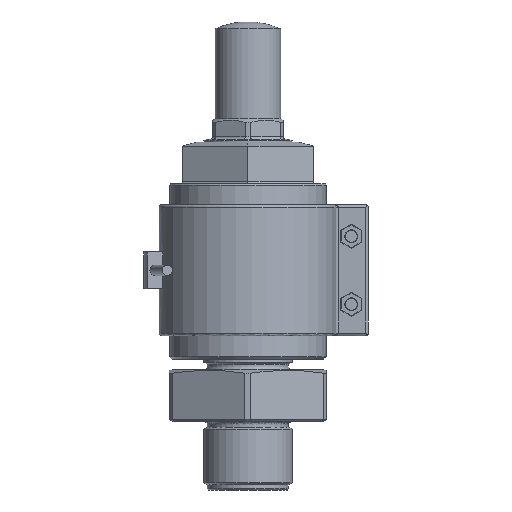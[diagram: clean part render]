
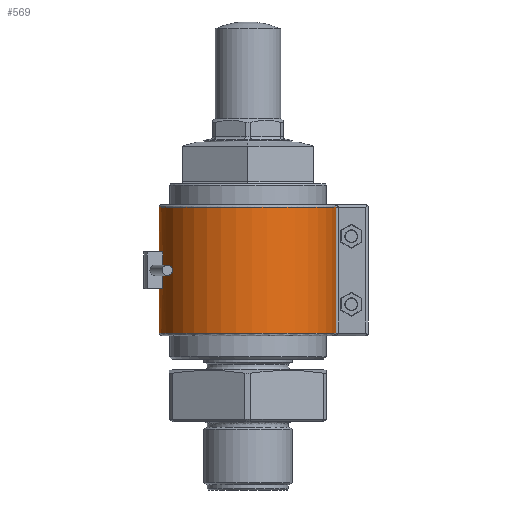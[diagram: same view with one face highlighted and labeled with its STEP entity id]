
A CAD part, left-side view. The second image highlights one B-rep face of the part: STEP entity #569.
In plain terms, the highlighted cylindrical face has radius 34 mm (diameter 68 mm), a partial arc.
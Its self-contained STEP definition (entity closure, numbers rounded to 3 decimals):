
#569=ADVANCED_FACE('',(#1286,#1287),#1288,.T.);
#1286=FACE_BOUND('',#2876,.T.);
#1287=FACE_OUTER_BOUND('',#2877,.T.);
#1288=CYLINDRICAL_SURFACE('',#2878,34.0);
#2876=EDGE_LOOP('',(#4354,#4355,#4356,#4357));
#2877=EDGE_LOOP('',(#4358,#4359,#4360,#4361));
#2878=AXIS2_PLACEMENT_3D('',#4362,#4363,#4364);
#4354=ORIENTED_EDGE('',*,*,#5707,.F.);
#4355=ORIENTED_EDGE('',*,*,#5708,.F.);
#4356=ORIENTED_EDGE('',*,*,#5709,.F.);
#4357=ORIENTED_EDGE('',*,*,#5710,.F.);
#4358=ORIENTED_EDGE('',*,*,#5711,.T.);
#4359=ORIENTED_EDGE('',*,*,#5644,.T.);
#4360=ORIENTED_EDGE('',*,*,#5712,.T.);
#4361=ORIENTED_EDGE('',*,*,#5681,.T.);
#4362=CARTESIAN_POINT('',(0.0,0.,-74.0));
#4363=DIRECTION('',(0.0,0.0,1.0));
#4364=DIRECTION('',(1.0,0.0,0.0));
#5644=EDGE_CURVE('',#6546,#6542,#6550,.T.);
#5681=EDGE_CURVE('',#6609,#6605,#6613,.F.);
#5707=EDGE_CURVE('',#6647,#6648,#6649,.T.);
#5708=EDGE_CURVE('',#6650,#6647,#6651,.T.);
#5709=EDGE_CURVE('',#6652,#6650,#6653,.T.);
#5710=EDGE_CURVE('',#6648,#6652,#6654,.T.);
#5711=EDGE_CURVE('',#6605,#6546,#6655,.F.);
#5712=EDGE_CURVE('',#6542,#6609,#6656,.F.);
#6542=VERTEX_POINT('',#7918);
#6546=VERTEX_POINT('',#7933);
#6550=LINE('',#7938,#7939);
#6605=VERTEX_POINT('',#8035);
#6609=VERTEX_POINT('',#8050);
#6613=LINE('',#8055,#8056);
#6647=VERTEX_POINT('',#8120);
#6648=VERTEX_POINT('',#8121);
#6649=CIRCLE('',#8122,34.0);
#6650=VERTEX_POINT('',#8123);
#6651=LINE('',#8124,#8125);
#6652=VERTEX_POINT('',#8126);
#6653=CIRCLE('',#8127,34.0);
#6654=LINE('',#8128,#8129);
#6655=CIRCLE('',#8130,34.0);
#6656=CIRCLE('',#8131,34.0);
#7918=CARTESIAN_POINT('',(-4.857,-33.651,-25.0));
#7933=CARTESIAN_POINT('',(-4.857,-33.651,-73.0));
#7938=CARTESIAN_POINT('',(-4.857,-33.651,-74.0));
#7939=VECTOR('',#9210,1.0);
#8035=CARTESIAN_POINT('',(8.743,-32.857,-73.0));
#8050=CARTESIAN_POINT('',(8.743,-32.857,-25.0));
#8055=CARTESIAN_POINT('',(8.743,-32.857,-74.0));
#8056=VECTOR('',#9268,1.0);
#8120=CARTESIAN_POINT('',(15.642,30.188,-56.0));
#8121=CARTESIAN_POINT('',(-9.719,32.581,-56.0));
#8122=AXIS2_PLACEMENT_3D('',#9298,#9299,#9300);
#8123=CARTESIAN_POINT('',(15.642,30.188,-42.0));
#8124=CARTESIAN_POINT('',(15.642,30.188,-56.0));
#8125=VECTOR('',#9301,1.0);
#8126=CARTESIAN_POINT('',(-9.719,32.581,-42.0));
#8127=AXIS2_PLACEMENT_3D('',#9302,#9303,#9304);
#8128=CARTESIAN_POINT('',(-9.719,32.581,-42.0));
#8129=VECTOR('',#9305,1.0);
#8130=AXIS2_PLACEMENT_3D('',#9306,#9307,#9308);
#8131=AXIS2_PLACEMENT_3D('',#9309,#9310,#9311);
#9210=DIRECTION('',(0.0,0.0,1.0));
#9268=DIRECTION('',(0.0,0.0,1.0));
#9298=CARTESIAN_POINT('',(0.0,0.,-56.0));
#9299=DIRECTION('',(0.0,0.0,1.0));
#9300=DIRECTION('',(-0.094,-0.996,0.0));
#9301=DIRECTION('',(0.0,0.0,-1.0));
#9302=CARTESIAN_POINT('',(0.0,0.,-42.0));
#9303=DIRECTION('',(-0.0,0.0,-1.0));
#9304=DIRECTION('',(-0.094,-0.996,0.0));
#9305=DIRECTION('',(0.0,0.0,1.0));
#9306=CARTESIAN_POINT('',(0.0,0.,-73.0));
#9307=DIRECTION('',(-0.0,0.0,-1.0));
#9308=DIRECTION('',(-1.0,0.0,0.0));
#9309=CARTESIAN_POINT('',(0.0,0.,-25.0));
#9310=DIRECTION('',(0.0,0.0,1.0));
#9311=DIRECTION('',(1.0,0.0,-0.0));
